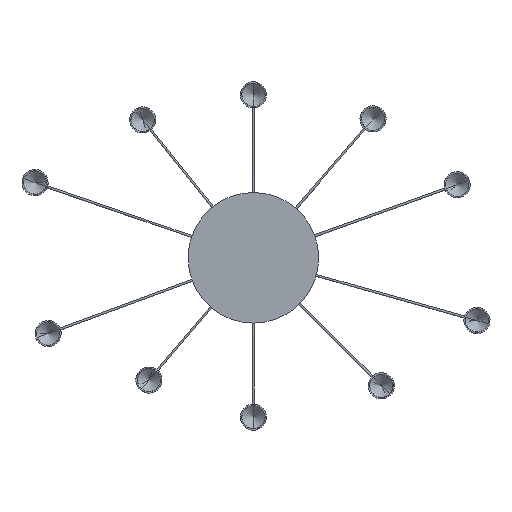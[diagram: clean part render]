
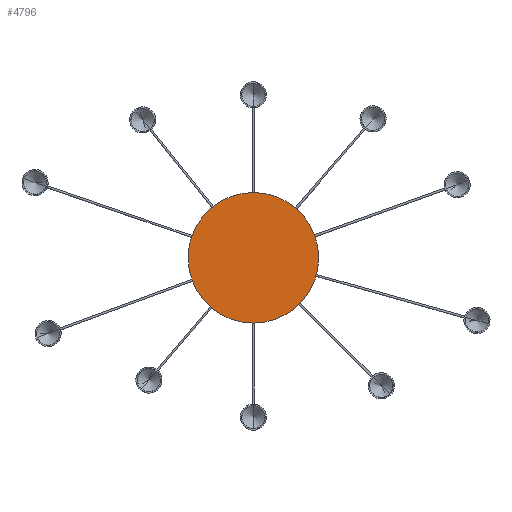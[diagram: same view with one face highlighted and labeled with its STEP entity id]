
A CAD part, front view. The second image highlights one B-rep face of the part: STEP entity #4796.
In plain terms, the highlighted planar face has unit normal (0, -1, 0).
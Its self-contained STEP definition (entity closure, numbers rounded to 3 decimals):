
#316 = CIRCLE ( 'NONE', #4654, 125. ) ;
#345 = CARTESIAN_POINT ( 'NONE',  ( 0., -21.5, 125. ) ) ;
#433 = DIRECTION ( 'NONE',  ( 0., -1., 0. ) ) ;
#454 = CARTESIAN_POINT ( 'NONE',  ( 0., -21.5, 0. ) ) ;
#1052 = CARTESIAN_POINT ( 'NONE',  ( 125., -21.5, 0. ) ) ;
#1089 = ORIENTED_EDGE ( 'NONE', *, *, #2130, .T. ) ;
#1582 = DIRECTION ( 'NONE',  ( 0., 0., -1. ) ) ;
#1931 = EDGE_CURVE ( 'NONE', #2007, #4688, #316, .T. ) ;
#2007 = VERTEX_POINT ( 'NONE', #345 ) ;
#2112 = AXIS2_PLACEMENT_3D ( 'NONE', #1052, #433, #2924 ) ;
#2130 = EDGE_CURVE ( 'NONE', #4688, #2007, #6859, .T. ) ;
#2649 = CARTESIAN_POINT ( 'NONE',  ( 0., -21.5, -125. ) ) ;
#2674 = DIRECTION ( 'NONE',  ( 0., -1., 0. ) ) ;
#2820 = DIRECTION ( 'NONE',  ( 0., 0., -1. ) ) ;
#2924 = DIRECTION ( 'NONE',  ( 0., 0., -1. ) ) ;
#3293 = CARTESIAN_POINT ( 'NONE',  ( 0., -21.5, 0. ) ) ;
#3944 = ORIENTED_EDGE ( 'NONE', *, *, #1931, .T. ) ;
#4654 = AXIS2_PLACEMENT_3D ( 'NONE', #454, #2674, #2820 ) ;
#4669 = PLANE ( 'NONE',  #2112 ) ;
#4688 = VERTEX_POINT ( 'NONE', #2649 ) ;
#4796 = ADVANCED_FACE ( 'NONE', ( #6357 ), #4669, .T. ) ;
#5264 = AXIS2_PLACEMENT_3D ( 'NONE', #3293, #6879, #1582 ) ;
#5639 = EDGE_LOOP ( 'NONE', ( #1089, #3944 ) ) ;
#6357 = FACE_OUTER_BOUND ( 'NONE', #5639, .T. ) ;
#6859 = CIRCLE ( 'NONE', #5264, 125. ) ;
#6879 = DIRECTION ( 'NONE',  ( 0., -1., 0. ) ) ;
